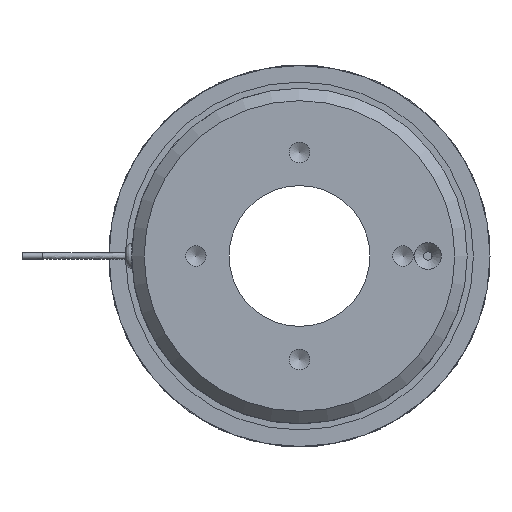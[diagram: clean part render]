
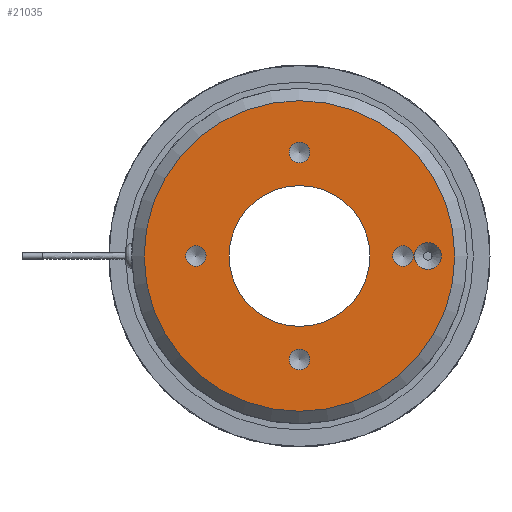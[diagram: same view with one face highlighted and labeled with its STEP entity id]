
A CAD part, left-side view. The second image highlights one B-rep face of the part: STEP entity #21035.
In plain terms, the highlighted planar face has unit normal (-1, 0, 0).
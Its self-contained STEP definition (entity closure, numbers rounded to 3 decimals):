
#349=FACE_BOUND('',#2494,.T.);
#350=FACE_BOUND('',#2495,.T.);
#351=FACE_BOUND('',#2496,.T.);
#352=FACE_BOUND('',#2497,.T.);
#353=FACE_BOUND('',#2498,.T.);
#354=FACE_BOUND('',#2499,.T.);
#607=PLANE('',#23148);
#1335=FACE_OUTER_BOUND('',#2493,.T.);
#2493=EDGE_LOOP('',(#16349));
#2494=EDGE_LOOP('',(#16350));
#2495=EDGE_LOOP('',(#16351));
#2496=EDGE_LOOP('',(#16352));
#2497=EDGE_LOOP('',(#16353));
#2498=EDGE_LOOP('',(#16354));
#2499=EDGE_LOOP('',(#16355));
#3930=CIRCLE('',#23140,3.25);
#3934=CIRCLE('',#23147,37.5);
#3935=CIRCLE('',#23149,17.);
#3936=CIRCLE('',#23150,2.459);
#3937=CIRCLE('',#23151,2.459);
#3938=CIRCLE('',#23152,2.459);
#3939=CIRCLE('',#23153,2.459);
#8476=VERTEX_POINT('',#36451);
#8479=VERTEX_POINT('',#36465);
#8480=VERTEX_POINT('',#36469);
#8481=VERTEX_POINT('',#36471);
#8482=VERTEX_POINT('',#36473);
#8483=VERTEX_POINT('',#36475);
#8484=VERTEX_POINT('',#36477);
#11225=EDGE_CURVE('',#8476,#8476,#3930,.T.);
#11234=EDGE_CURVE('',#8479,#8479,#3934,.T.);
#11235=EDGE_CURVE('',#8480,#8480,#3935,.T.);
#11236=EDGE_CURVE('',#8481,#8481,#3936,.T.);
#11237=EDGE_CURVE('',#8482,#8482,#3937,.T.);
#11238=EDGE_CURVE('',#8483,#8483,#3938,.T.);
#11239=EDGE_CURVE('',#8484,#8484,#3939,.T.);
#16349=ORIENTED_EDGE('',*,*,#11234,.F.);
#16350=ORIENTED_EDGE('',*,*,#11225,.T.);
#16351=ORIENTED_EDGE('',*,*,#11235,.T.);
#16352=ORIENTED_EDGE('',*,*,#11236,.T.);
#16353=ORIENTED_EDGE('',*,*,#11237,.T.);
#16354=ORIENTED_EDGE('',*,*,#11238,.T.);
#16355=ORIENTED_EDGE('',*,*,#11239,.T.);
#21035=ADVANCED_FACE('',(#1335,#349,#350,#351,#352,#353,#354),#607,.T.);
#23140=AXIS2_PLACEMENT_3D('',#36452,#28409,#28410);
#23147=AXIS2_PLACEMENT_3D('',#36467,#28428,#28429);
#23148=AXIS2_PLACEMENT_3D('',#36468,#28430,#28431);
#23149=AXIS2_PLACEMENT_3D('',#36470,#28432,#28433);
#23150=AXIS2_PLACEMENT_3D('',#36472,#28434,#28435);
#23151=AXIS2_PLACEMENT_3D('',#36474,#28436,#28437);
#23152=AXIS2_PLACEMENT_3D('',#36476,#28438,#28439);
#23153=AXIS2_PLACEMENT_3D('',#36478,#28440,#28441);
#28409=DIRECTION('center_axis',(1.,0.,0.));
#28410=DIRECTION('ref_axis',(0.,0.,-1.));
#28428=DIRECTION('center_axis',(1.,0.,0.));
#28429=DIRECTION('ref_axis',(0.,-1.,0.));
#28430=DIRECTION('center_axis',(-1.,0.,0.));
#28431=DIRECTION('ref_axis',(0.,0.,
1.));
#28432=DIRECTION('center_axis',(1.,0.,0.));
#28433=DIRECTION('ref_axis',(0.,0.,-1.));
#28434=DIRECTION('center_axis',(1.,0.,0.));
#28435=DIRECTION('ref_axis',(0.,0.,
1.));
#28436=DIRECTION('center_axis',(1.,0.,0.));
#28437=DIRECTION('ref_axis',(0.,0.,
1.));
#28438=DIRECTION('center_axis',(1.,0.,0.));
#28439=DIRECTION('ref_axis',(0.,0.,
1.));
#28440=DIRECTION('center_axis',(1.,0.,0.));
#28441=DIRECTION('ref_axis',(0.,0.,
1.));
#36451=CARTESIAN_POINT('',(-17.5,-31.,3.25));
#36452=CARTESIAN_POINT('Origin',(-17.5,-31.,0.));
#36465=CARTESIAN_POINT('',(-17.5,37.5,0.));
#36467=CARTESIAN_POINT('Origin',(-17.5,0.,0.));
#36468=CARTESIAN_POINT('Origin',(-17.5,40.5,0.));
#36469=CARTESIAN_POINT('',(-17.5,-17.,0.));
#36470=CARTESIAN_POINT('Origin',(-17.5,0.,0.));
#36471=CARTESIAN_POINT('',(-17.5,25.,-2.459));
#36472=CARTESIAN_POINT('Origin',(-17.5,25.,0.));
#36473=CARTESIAN_POINT('',(-17.5,-25.,-2.459));
#36474=CARTESIAN_POINT('Origin',(-17.5,-25.,0.));
#36475=CARTESIAN_POINT('',(-17.5,0.,-27.459));
#36476=CARTESIAN_POINT('Origin',(-17.5,0.,-25.));
#36477=CARTESIAN_POINT('',(-17.5,0.,22.542));
#36478=CARTESIAN_POINT('Origin',(-17.5,0.,25.));
